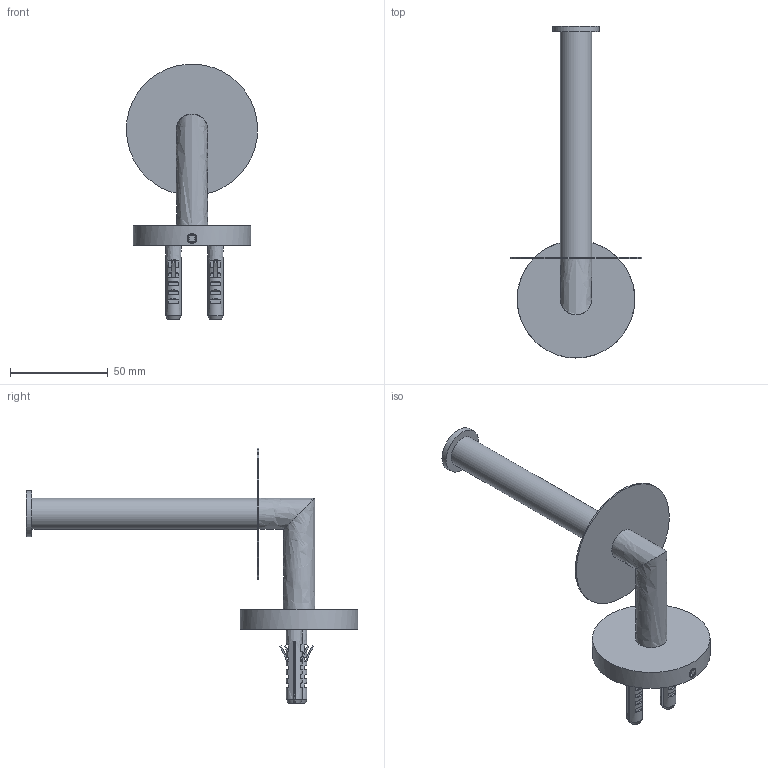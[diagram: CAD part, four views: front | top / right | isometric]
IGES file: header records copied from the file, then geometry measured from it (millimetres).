
Global section: file name: f28002d6-5840-4c77-8abd-8bbc1774b381.zip; native system: unknown; preprocessor: unknown; author: unknown; organization: unknown; date: 20200108.122037; units: millimetre
Bounding box: 67 x 169.3 x 130.47 mm (x, y, z)
Volume: 37122.4 mm3; surface area: 43574.5 mm2
Topology: 15 solids, 15 shells, 658 faces, 1737 edges, 1132 vertices
Faces by surface type: bspline 658
